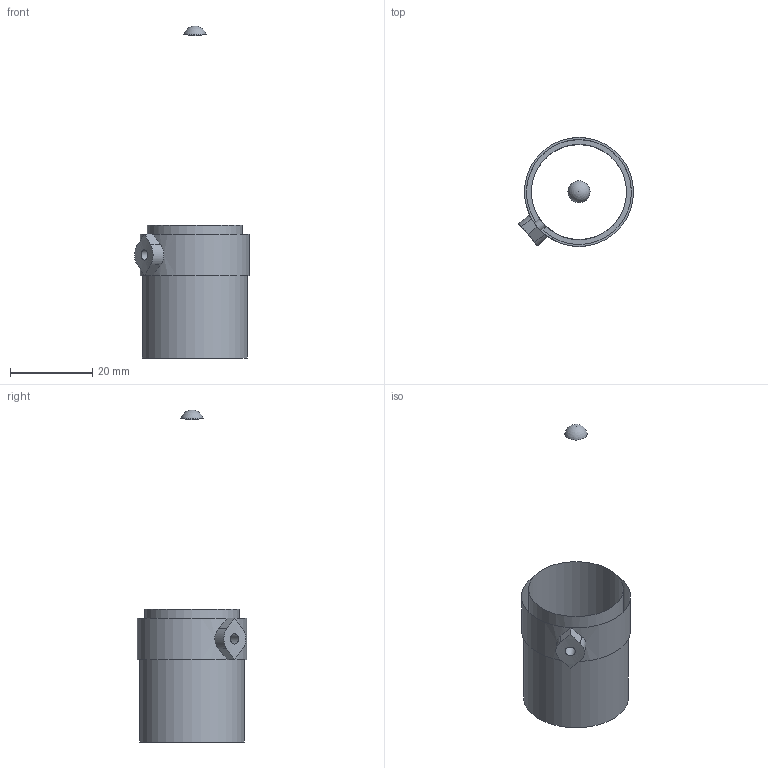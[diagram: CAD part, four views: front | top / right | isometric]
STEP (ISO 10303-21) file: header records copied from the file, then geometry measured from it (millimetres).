
FILE_DESCRIPTION(/* description */ (''),/* implementation_level */ '2;1');
FILE_NAME(/* name */ 'Booster-Spitze-8x.stp',/* time_stamp */ '2026-03-30T18:53:53+02:00',/* author */ ('rs22sud'),/* organization */ (''),/* preprocessor_version */ 'ST-DEVELOPER v20.1',/* originating_system */ 'Autodesk Inventor 2026',/* authorisation */ '');
FILE_SCHEMA (('AUTOMOTIVE_DESIGN { 1 0 10303 214 3 1 1 }'));
Length unit declared in the file: millimetre
Products named in the file (1): Delta_2_60mm
Bounding box: 27.88 x 26.45 x 80.5 mm (x, y, z)
Volume: 6058.9 mm3; surface area: 9441.1 mm2
Topology: 1 solids, 1 shells, 17 faces, 41 edges, 25 vertices
Faces by surface type: cylinder 7, plane 6, cone 2, sphere 2
Full cylindrical faces by diameter (mm): 2.5 x1, 23.05 x1, 25.45 x1, 26.45 x1
Entity records: 661 total; most frequent: CARTESIAN_POINT 189, DIRECTION 84, ORIENTED_EDGE 78, EDGE_CURVE 39, AXIS2_PLACEMENT_3D 36, VERTEX_POINT 25, EDGE_LOOP 20, FACE_OUTER_BOUND 17
